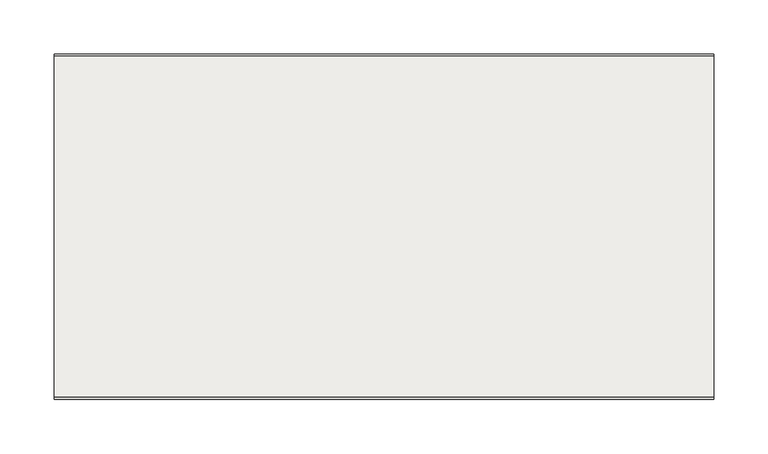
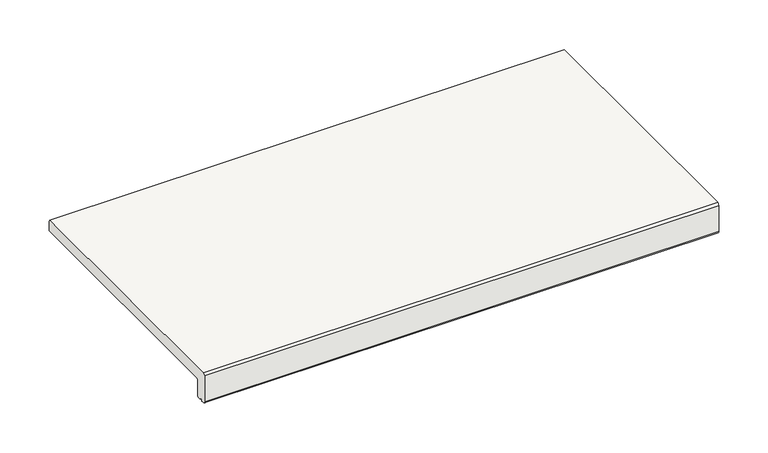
"""IFC4 building model written with IfcOpenShell, lengths in millimetres: slab geometry, ROSA GRES_L62 : Pieza L62_Tresor_Java_Anti-Slip."""

from ifc_helpers import new_model, si_unit, point, frame, frame_2d, origin, place, context, project, spatial, polyline, circle_curve, trimmed, segment, composite_curve, outline, extrude, source, transform, mapped, element, save


def slab_90aa90d8(model_context):
    return source(origin(), model_context, "Body", "SweptSolid", [
        extrude(outline(composite_curve([segment(polyline([(12.1001991, -37.0), (9.4054777, -37.0)]), True, "CONTINUOUS"), segment(trimmed(circle_curve(frame_2d((7.4142134, -37.0)), 1.9912643), [point((9.4054777, -37.0))], [point((5.422949, -37.0))], True, "CARTESIAN"), True, "CONTINUOUS"), segment(polyline([(5.422949, -37.0), (2.5, -37.0)]), True, "CONTINUOUS"), segment(trimmed(circle_curve(frame_2d((2.5, -34.5)), 2.5), [point((2.5, -37.0))], [point((0.0, -34.5))], False, "CARTESIAN"), True, "CONTINUOUS"), segment(polyline([(0.0, -34.5), (0.0, -2.5), (2.5, 0.0), (315.5, 0.0), (317.0, -2.5), (317.0, -12.4648352)]), True, "CONTINUOUS"), segment(trimmed(circle_curve(frame_2d((315.5234432, -12.4648352)), 1.4765568), [point((317.0, -12.4648352))], [point((315.5234432, -13.9413919))], False, "CARTESIAN"), True, "CONTINUOUS"), segment(polyline([(315.5234432, -13.9413919), (16.6422322, -13.9413919)]), True, "CONTINUOUS"), segment(trimmed(circle_curve(frame_2d((16.6422322, -16.5836242)), 2.6422322), [point((16.6422322, -13.9413919))], [point((14.0, -16.5836242))], True, "CARTESIAN"), True, "CONTINUOUS"), segment(polyline([(14.0, -16.5836242), (14.0, -35.1001991)]), True, "CONTINUOUS"), segment(trimmed(circle_curve(frame_2d((12.1001991, -35.1001991)), 1.8998009), [point((14.0, -35.1001991))], [point((12.1001991, -37.0))], False, "CARTESIAN"), True, "CONTINUOUS")], self_intersect=False)), frame((0.0, 0.0, 0.0), z_axis=(1.0, 0.0, 0.0), x_axis=(0.0, 1.0, 0.0)), (0.0, 0.0, 1.0), 605.0),
    ])


if __name__ == "__main__":
    model = new_model("IFC4")
    model_context = context("Model", 3, world=origin())
    ifc_project = project(units=[si_unit("LENGTHUNIT", "METRE", prefix="MILLI")], contexts=[model_context])
    site = spatial("IfcSite", under=ifc_project)
    building = spatial("IfcBuilding", under=site)
    placement = place(None, origin())
    slab_shape = slab_90aa90d8(model_context)
    element("IfcSlab", 1, ObjectType="ROSA GRES_L62 : Pieza L62_Tresor_Java_Anti-Slip", at=placement, inside=building, context=model_context, shape_type="MappedRepresentation", body=[
        mapped(slab_shape, transform((0.0, 0.0, 0.0), x_axis=(1.0, 0.0, 0.0), y_axis=(0.0, 1.0, 0.0), z_axis=(0.0, 0.0, 1.0))),
    ])
    save(model, "model.ifc")
